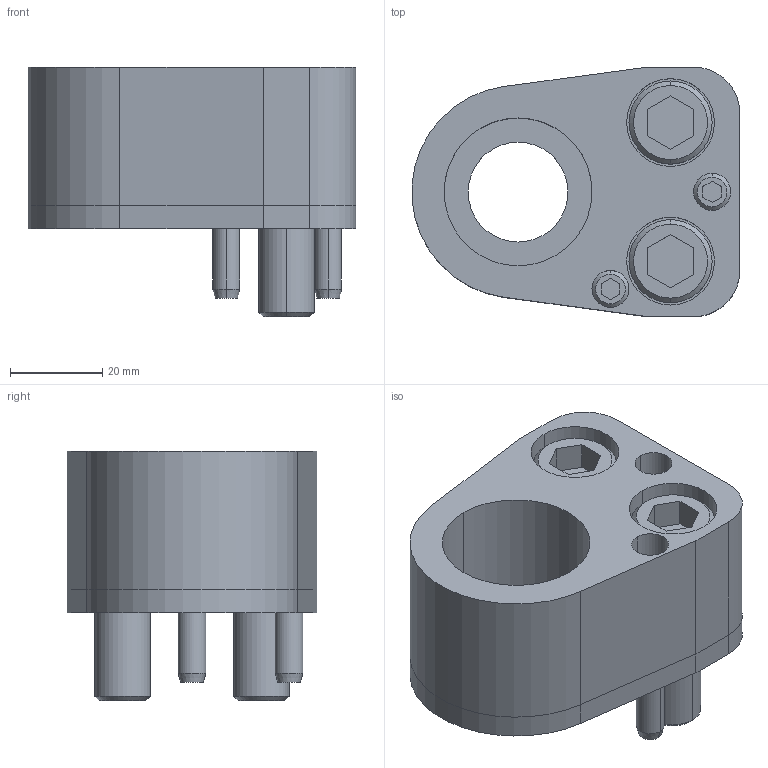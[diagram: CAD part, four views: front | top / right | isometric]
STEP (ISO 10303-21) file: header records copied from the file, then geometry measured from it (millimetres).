
FILE_DESCRIPTION(/* description */ (''),/* implementation_level */ '2;1');
FILE_NAME(/* name */ '3d_cp-ad32_03058_r00.stp',/* time_stamp */ '2011-01-10T14:16:31+09:00',/* author */ ('MISUMI'),/* organization */ (''),/* preprocessor_version */ 'ST-DEVELOPER v11',/* originating_system */ 'UGS - NX 5.0',/* authorisation */ '');
FILE_SCHEMA (('CONFIG_CONTROL_DESIGN'));
Length unit declared in the file: millimetre
Products named in the file (1): 3d_cp-ad32_03058_r00
Bounding box: 70.92 x 54 x 54 mm (x, y, z)
Volume: 87379.3 mm3; surface area: 32998.5 mm2
Topology: 8 solids, 8 shells, 155 faces, 346 edges, 222 vertices
Faces by surface type: plane 67, cylinder 62, cone 26
Entity records: 4474 total; most frequent: DIRECTION 804, CARTESIAN_POINT 772, ORIENTED_EDGE 692, EDGE_CURVE 346, AXIS2_PLACEMENT_3D 306, VERTEX_POINT 222, LINE 192, VECTOR 192
